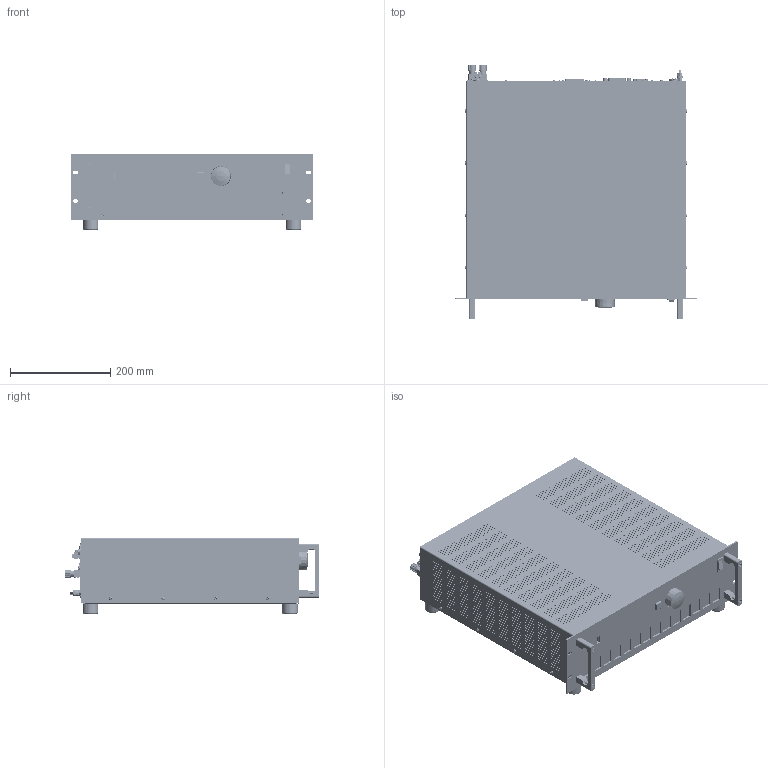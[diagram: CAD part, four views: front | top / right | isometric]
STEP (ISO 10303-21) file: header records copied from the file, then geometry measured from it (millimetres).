
FILE_DESCRIPTION(('STEP AP214'),'1');
FILE_NAME('QL_M6_19Z_3HE_PK4_30L_3D_01_01.step','2022-06-23T07:50:50',(' '),(' '),'Spatial InterOp 3D',' ',' ');
FILE_SCHEMA(('AUTOMOTIVE_DESIGN { 1 0 10303 214 1 1 1 1 }'));
Length unit declared in the file: millimetre
Products named in the file (24): 151_PLHA_3D_05; PEM_M3_; 2230_QL 3HE Rückwand_3D_02_mit_Einbauten; *U411; *U412; *U413; AutoCreatedBlock_1827; 2235_QL Gehäuse 3HE_3D_01; 2228_QL Frontplatte 3HE 3D_02_mit_Einbauten; BG441_mit_MT1955_3D_01; *U497; AutoCreatedBlock_1839; 358_QUPRO_3D_03; DIN 965-A; 2257_QL_IO Panel Standard_3D_01; 2084_IO-Port Abdeckung_3D_01; DIN 7985-A; 2390_QL_3HE_Polklemmendurchführung_3D_01_mit_PBK4_30L; 3xM2.5_5x5x12; *U573; AutoCreatedBlock_1853; AutoCreatedBlock_1819
Assembly tree (65 placements, depth 3):
  (unnamed)
    151_PLHA_3D_05  x2
    PEM_M3_  x2
    2230_QL 3HE Rückwand_3D_02_mit_Einbauten
      *U411
      *U412  x2
      *U413  x3
      AutoCreatedBlock_1827
    2235_QL Gehäuse 3HE_3D_01
    2228_QL Frontplatte 3HE 3D_02_mit_Einbauten
    BG441_mit_MT1955_3D_01
      *U497  x2
      AutoCreatedBlock_1839
    358_QUPRO_3D_03
    DIN 965-A  x3
    2257_QL_IO Panel Standard_3D_01
    2084_IO-Port Abdeckung_3D_01  x2
    DIN 7985-A  x23
    2390_QL_3HE_Polklemmendurchführung_3D_01_mit_PBK4_30L
      3xM2.5_5x5x12  x2
      *U573  x2
      AutoCreatedBlock_1853
    DIN 7985-A  x10
    AutoCreatedBlock_1819
Bounding box: 482.6 x 509.25 x 152.68 mm (x, y, z)
Volume: 24302184.6 mm3; surface area: 2057871.8 mm2
Topology: 230 solids, 231 shells, 19323 faces, 50030 edges, 31804 vertices
Faces by surface type: plane 8705, cone 5349, cylinder 4547, torus 279, bspline 277, sphere 154, extrusion 12
Entity records: 680746 total; most frequent: CARTESIAN_POINT 133686, DIRECTION 87413, ORIENTED_EDGE 85034, EDGE_CURVE 42517, AXIS2_PLACEMENT_3D 29764, VECTOR 27885, LINE 27873, VERTEX_POINT 27026
